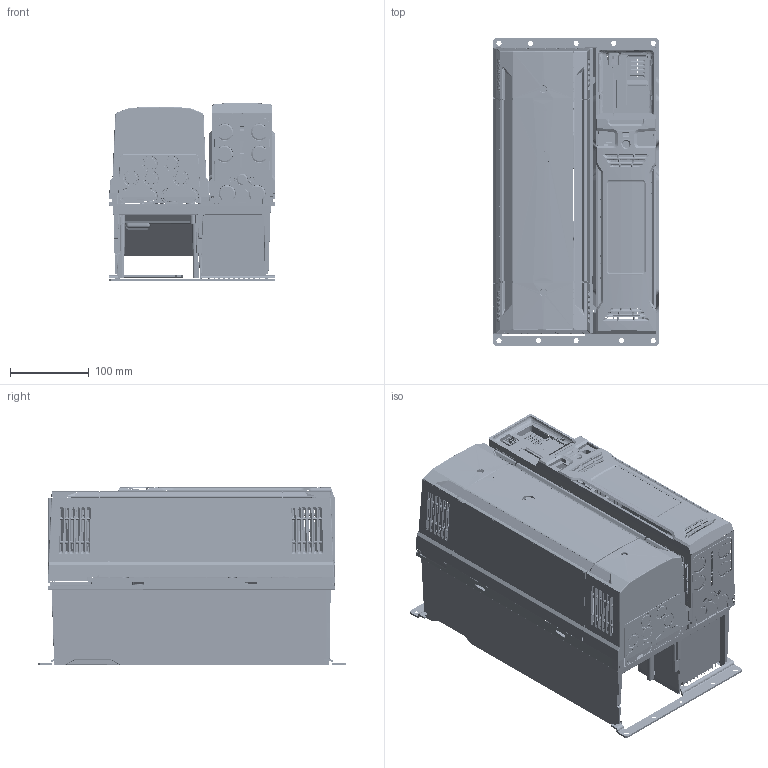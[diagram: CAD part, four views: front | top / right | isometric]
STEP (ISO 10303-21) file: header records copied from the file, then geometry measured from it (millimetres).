
FILE_DESCRIPTION((''),'2;1');
FILE_NAME('UNIM06_WITH_COVERS','2013-09-02T',('lewisi02'),(''),'PRO/ENGINEER BY PARAMETRIC TECHNOLOGY CORPORATION, 2011490','PRO/ENGINEER BY PARAMETRIC TECHNOLOGY CORPORATION, 2011490','');
FILE_SCHEMA(('CONFIG_CONTROL_DESIGN'));
Products named in the file (1): UNIM06_WITH_COVERS
Bounding box: 210.41 x 390.75 x 227 mm (x, y, z)
Surface area: 1111842.2 mm2 (no closed solid volume)
Topology: 0 solids, 1036 shells, 4188 faces, 33542 edges, 29754 vertices
Faces by surface type: plane 2331, cylinder 957, bspline 264, cone 247, torus 222, extrusion 159, sphere 8
Entity records: 375366 total; most frequent: CARTESIAN_POINT 153933, ORIENTED_EDGE 38595, DIRECTION 37189, EDGE_CURVE 33540, VERTEX_POINT 29754, VECTOR 21999, LINE 21840, B_SPLINE_CURVE_WITH_KNOTS 8029
